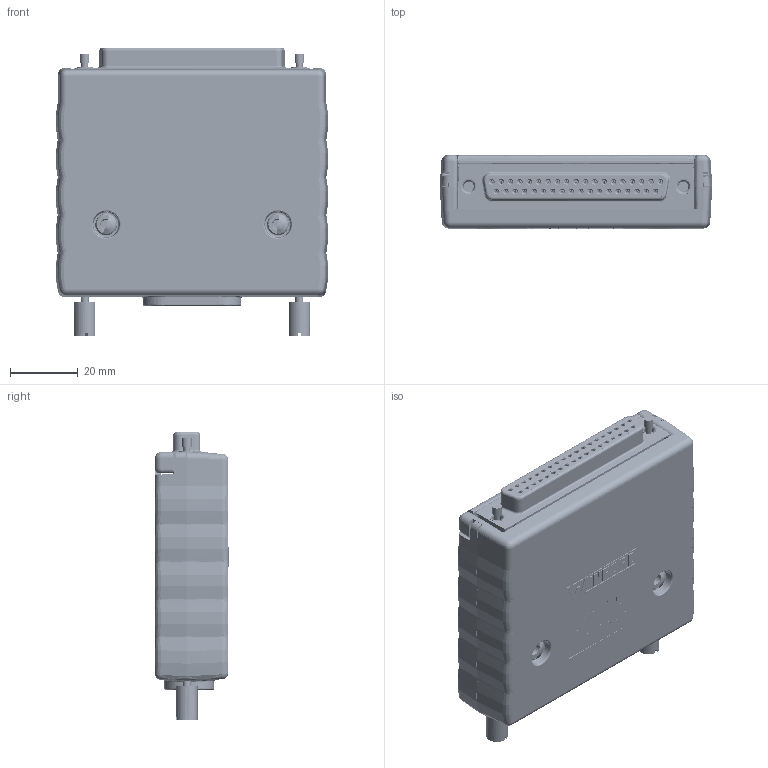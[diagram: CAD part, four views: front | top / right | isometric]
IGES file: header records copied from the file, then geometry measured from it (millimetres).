
Start section: SolidWorks IGES file using analytic representation for surfaces
Global section: file name: C:\Users\mudhf\Desktop\DB37 Enclosure\brkegd37f-t_rev_a.igs; native system: SolidWorks 2017; preprocessor: SolidWorks 2017; author: mudhf; date: 200924.010325; units: inch
Bounding box: 80.64 x 22 x 85.15 mm (x, y, z)
Surface area: 77884.6 mm2 (no closed solid volume)
Topology: 0 solids, 0 shells, 19739 faces, 136580 edges, 136559 vertices
Faces by surface type: bspline 13587, revolution 6152
